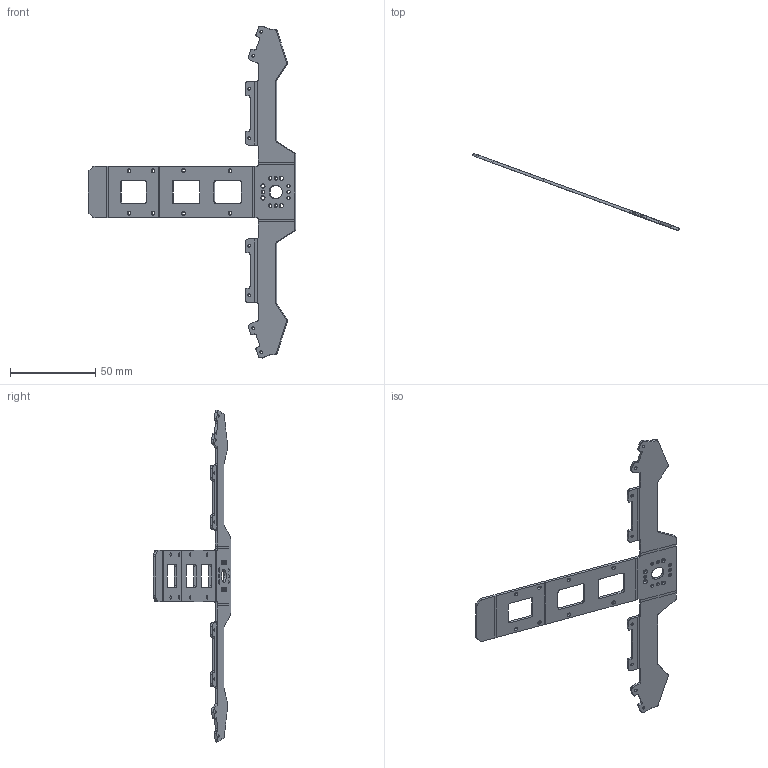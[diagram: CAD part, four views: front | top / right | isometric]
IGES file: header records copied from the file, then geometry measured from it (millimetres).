
Global section: file name: C:\Users\Knabe\Documents\Classes\8 Semester 8\DARwIn\Deliverables\DARwIn OP\DARwIn OP Part Files\CAD 2D\2D IGS\12_FR07_E180.igs; native system: NX V7.0; preprocessor: SIEMENS PLM Software NX 7.0; date: 20110525.175059; units: millimetre
Bounding box: 121.85 x 45.57 x 194.8 mm (x, y, z)
Surface area: 13374.3 mm2 (no closed solid volume)
Topology: 0 solids, 0 shells, 279 faces, 1977 edges, 2003 vertices
Faces by surface type: bspline 279
